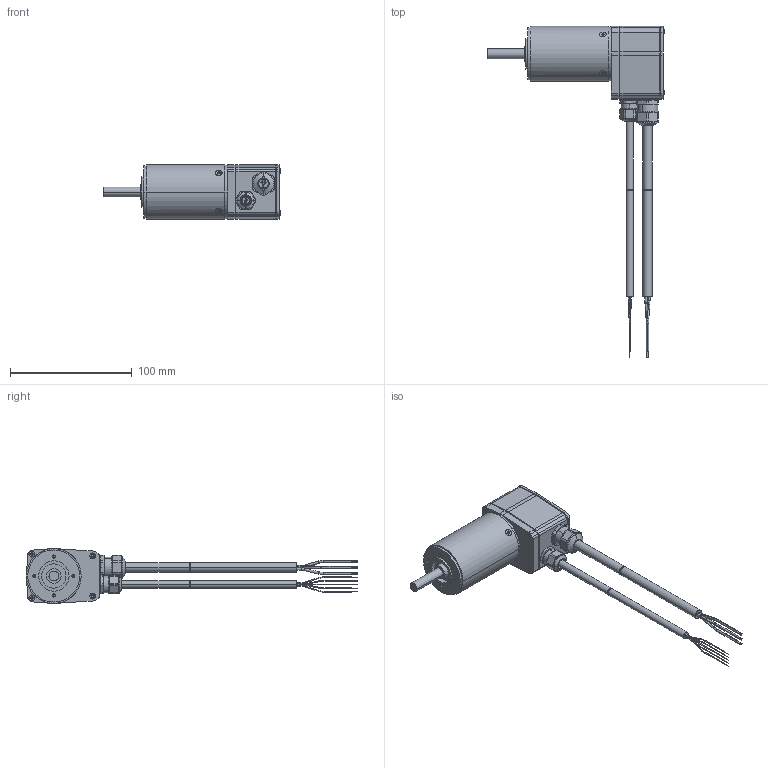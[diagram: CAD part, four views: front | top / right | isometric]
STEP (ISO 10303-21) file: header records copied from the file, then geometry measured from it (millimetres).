
FILE_DESCRIPTION((''),'2;1');
FILE_NAME('136202_EC45_150W','2016-10-17T',('mmagpetk'),(''),'CREO PARAMETRIC BY PTC INC, 2016050','CREO PARAMETRIC BY PTC INC, 2016050','');
FILE_SCHEMA(('CONFIG_CONTROL_DESIGN'));
Length unit declared in the file: millimetre
Products named in the file (1): 136202_EC45_150W
Bounding box: 145.3 x 271.99 x 45 mm (x, y, z)
Volume: 232731.1 mm3; surface area: 39611.2 mm2
Topology: 3 solids, 3 shells, 823 faces, 2006 edges, 1268 vertices
Faces by surface type: cylinder 353, plane 350, torus 62, cone 58
Entity records: 33027 total; most frequent: CARTESIAN_POINT 4671, DIRECTION 4448, ORIENTED_EDGE 3996, PRESENTATION_STYLE_ASSIGNMENT 2221, STYLED_ITEM 2001, CURVE_STYLE 1998, EDGE_CURVE 1998, AXIS2_PLACEMENT_3D 1663
